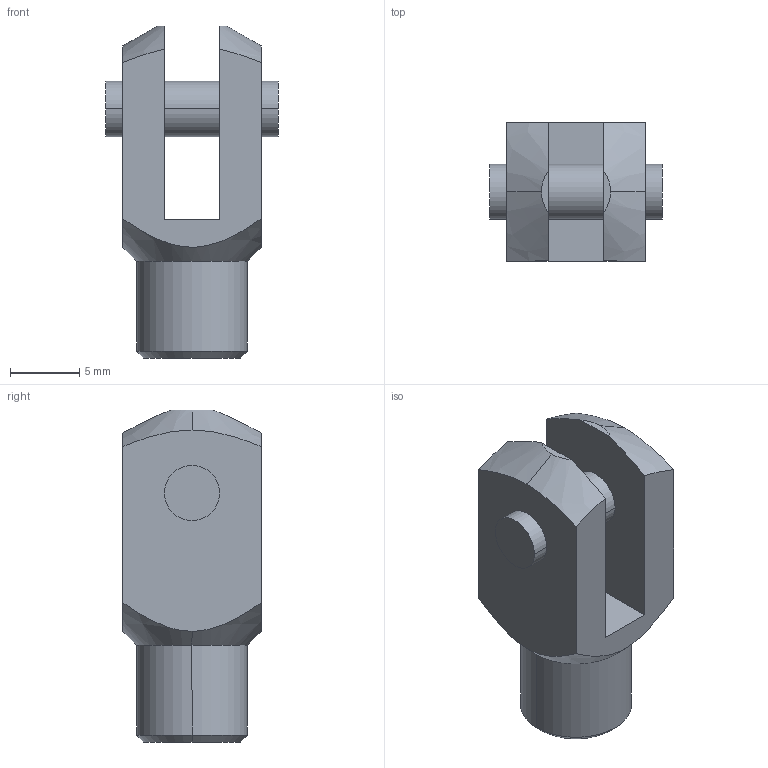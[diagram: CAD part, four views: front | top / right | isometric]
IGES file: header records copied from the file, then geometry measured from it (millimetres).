
Global section: file name: No Iges File Name specified; native system: AutoDesk Inventor R6.0; preprocessor: AutoDesk Inventor Iges Exporter R6.0; author: No Author specified; organization: No Organization specified; date: 20030408.082413; units: millimetre
Bounding box: 12.5 x 10 x 24 mm (x, y, z)
Volume: 1365 mm3; surface area: 1243.3 mm2
Topology: 1 solids, 1 shells, 32 faces, 78 edges, 50 vertices
Faces by surface type: plane 12, cone 8, cylinder 8, bspline 4
